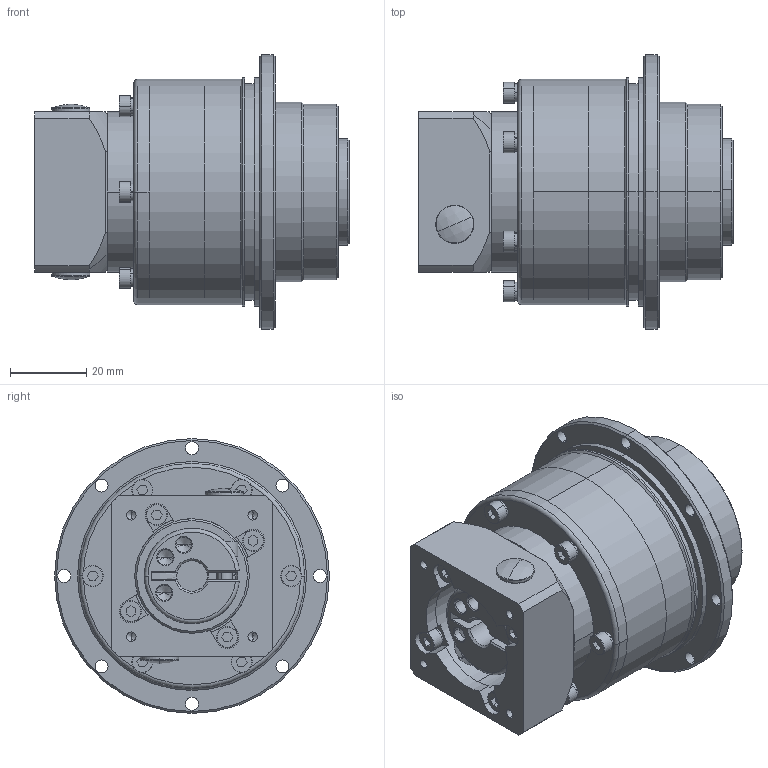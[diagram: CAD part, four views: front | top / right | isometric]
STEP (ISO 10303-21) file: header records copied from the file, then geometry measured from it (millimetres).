
FILE_DESCRIPTION (( 'STEP AP203' ), '1' );
FILE_NAME ('AD047L2-OP2-8-25-30-45-M3.STEP', '2020-03-10T07:47:56', ( 'dell' ), ( '' ), 'SwSTEP 2.0', 'SolidWorks 2018', '' );
FILE_SCHEMA (( 'CONFIG_CONTROL_DESIGN' ));
Length unit declared in the file: millimetre
Products named in the file (1): AD047L2-OP2-8-25-30-45-M3
Bounding box: 82.5 x 72 x 72 mm (x, y, z)
Volume: 103187.8 mm3; surface area: 60222.5 mm2
Topology: 43 solids, 43 shells, 905 faces, 2365 edges, 1489 vertices
Faces by surface type: cylinder 343, plane 252, cone 111, torus 109, sphere 86, bspline 4
Entity records: 28407 total; most frequent: CARTESIAN_POINT 6161, DIRECTION 4949, ORIENTED_EDGE 4438, EDGE_CURVE 2219, AXIS2_PLACEMENT_3D 2083, VERTEX_POINT 1433, CIRCLE 1181, EDGE_LOOP 1076
